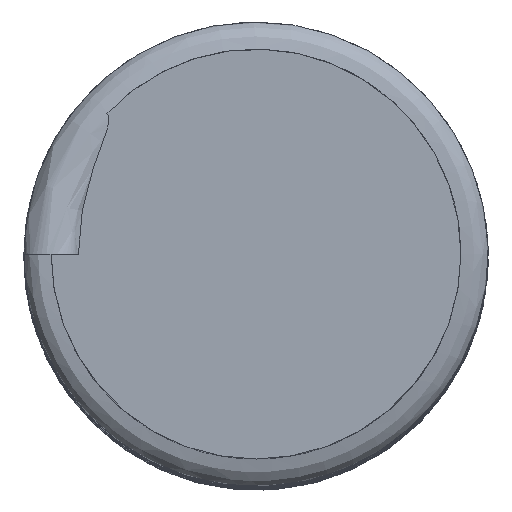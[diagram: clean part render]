
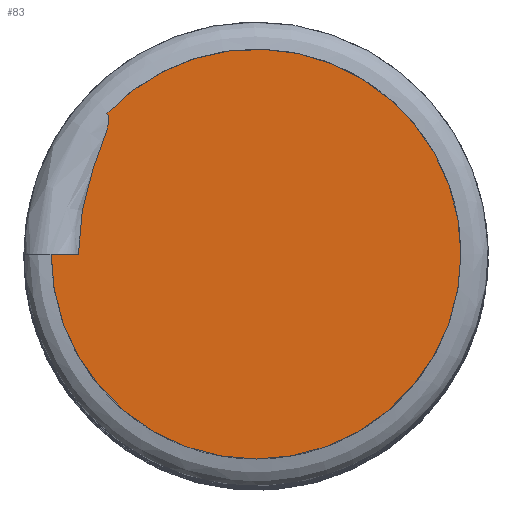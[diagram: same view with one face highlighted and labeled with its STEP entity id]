
A CAD part, top view. The second image highlights one B-rep face of the part: STEP entity #83.
In plain terms, the highlighted planar face has unit normal (0, 0, 1).
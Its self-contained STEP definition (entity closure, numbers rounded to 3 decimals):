
#58 = VERTEX_POINT ( 'NONE', #4073 ) ;
#77 = CIRCLE ( 'NONE', #2311, 3. ) ;
#83 = ADVANCED_FACE ( 'NONE', ( #2765 ), #5444, .T. ) ;
#139 = EDGE_CURVE ( 'NONE', #58, #4017, #921, .T. ) ;
#187 = CARTESIAN_POINT ( 'NONE',  ( -2.6, 0.355, 35. ) ) ;
#379 = CIRCLE ( 'NONE', #954, 3. ) ;
#439 = CARTESIAN_POINT ( 'NONE',  ( 3., 0., 35. ) ) ;
#839 = DIRECTION ( 'NONE',  ( 1., 0., 0. ) ) ;
#921 = LINE ( 'NONE', #5472, #2676 ) ;
#954 = AXIS2_PLACEMENT_3D ( 'NONE', #2929, #4768, #2025 ) ;
#1093 = ORIENTED_EDGE ( 'NONE', *, *, #2191, .T. ) ;
#1314 = CARTESIAN_POINT ( 'NONE',  ( -2.183, 2.058, 35. ) ) ;
#1612 = EDGE_CURVE ( 'NONE', #4017, #1915, #2254, .T. ) ;
#1681 = CARTESIAN_POINT ( 'NONE',  ( -2.6, 0., 35. ) ) ;
#1854 = CARTESIAN_POINT ( 'NONE',  ( 0., 0., 35. ) ) ;
#1915 = VERTEX_POINT ( 'NONE', #1314 ) ;
#2025 = DIRECTION ( 'NONE',  ( 1., 0., 0. ) ) ;
#2105 = AXIS2_PLACEMENT_3D ( 'NONE', #5869, #5049, #2280 ) ;
#2191 = EDGE_CURVE ( 'NONE', #58, #4297, #77, .T. ) ;
#2254 = B_SPLINE_CURVE_WITH_KNOTS ( 'NONE', 3,
 ( #1681, #187, #5226, #5288, #4332, #2556, #5712, #4396, #3879, #3943, #3492, #3064, #3523, #5348 ),
 .UNSPECIFIED., .F., .F.,
 ( 4, 2, 2, 2, 2, 2, 4 ),
 ( 0., 0.001, 0.002, 0.002, 0.002, 0.002, 0.002 ),
 .UNSPECIFIED. ) ;
#2280 = DIRECTION ( 'NONE',  ( 1., 0., 0. ) ) ;
#2311 = AXIS2_PLACEMENT_3D ( 'NONE', #1854, #3354, #2814 ) ;
#2556 = CARTESIAN_POINT ( 'NONE',  ( -2.248, 1.634, 35. ) ) ;
#2676 = VECTOR ( 'NONE', #839, 1000. ) ;
#2765 = FACE_OUTER_BOUND ( 'NONE', #3266, .T. ) ;
#2814 = DIRECTION ( 'NONE',  ( 1., 0., 0. ) ) ;
#2929 = CARTESIAN_POINT ( 'NONE',  ( 0., 0., 35. ) ) ;
#3064 = CARTESIAN_POINT ( 'NONE',  ( -2.159, 2.02, 35. ) ) ;
#3107 = ORIENTED_EDGE ( 'NONE', *, *, #1612, .F. ) ;
#3266 = EDGE_LOOP ( 'NONE', ( #5032, #1093, #4328, #3107 ) ) ;
#3354 = DIRECTION ( 'NONE',  ( 0., 0., 1. ) ) ;
#3492 = CARTESIAN_POINT ( 'NONE',  ( -2.154, 1.976, 35. ) ) ;
#3523 = CARTESIAN_POINT ( 'NONE',  ( -2.167, 2.043, 35. ) ) ;
#3879 = CARTESIAN_POINT ( 'NONE',  ( -2.164, 1.887, 35. ) ) ;
#3943 = CARTESIAN_POINT ( 'NONE',  ( -2.155, 1.953, 35. ) ) ;
#4017 = VERTEX_POINT ( 'NONE', #4909 ) ;
#4073 = CARTESIAN_POINT ( 'NONE',  ( -3., 0., 35. ) ) ;
#4297 = VERTEX_POINT ( 'NONE', #439 ) ;
#4328 = ORIENTED_EDGE ( 'NONE', *, *, #5929, .T. ) ;
#4332 = CARTESIAN_POINT ( 'NONE',  ( -2.341, 1.385, 35. ) ) ;
#4396 = CARTESIAN_POINT ( 'NONE',  ( -2.176, 1.844, 35. ) ) ;
#4768 = DIRECTION ( 'NONE',  ( 0., 0., 1. ) ) ;
#4909 = CARTESIAN_POINT ( 'NONE',  ( -2.6, 0., 35. ) ) ;
#5032 = ORIENTED_EDGE ( 'NONE', *, *, #139, .F. ) ;
#5049 = DIRECTION ( 'NONE',  ( 0., 0., 1. ) ) ;
#5226 = CARTESIAN_POINT ( 'NONE',  ( -2.544, 0.708, 35. ) ) ;
#5288 = CARTESIAN_POINT ( 'NONE',  ( -2.4, 1.218, 35. ) ) ;
#5348 = CARTESIAN_POINT ( 'NONE',  ( -2.183, 2.058, 35. ) ) ;
#5444 = PLANE ( 'NONE',  #2105 ) ;
#5472 = CARTESIAN_POINT ( 'NONE',  ( 0., 0., 35. ) ) ;
#5712 = CARTESIAN_POINT ( 'NONE',  ( -2.216, 1.717, 35. ) ) ;
#5869 = CARTESIAN_POINT ( 'NONE',  ( 0., 0., 35. ) ) ;
#5929 = EDGE_CURVE ( 'NONE', #4297, #1915, #379, .T. ) ;
